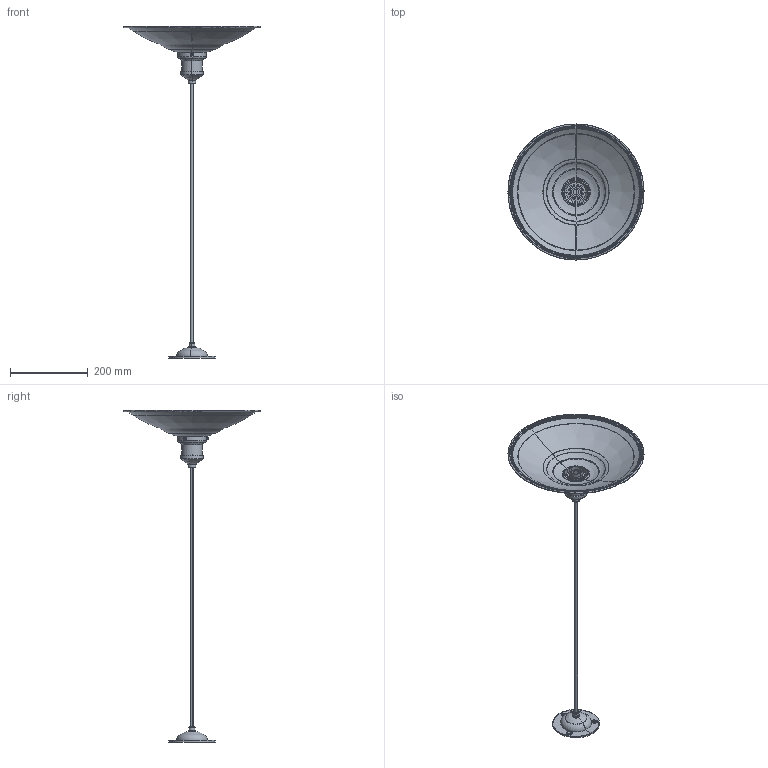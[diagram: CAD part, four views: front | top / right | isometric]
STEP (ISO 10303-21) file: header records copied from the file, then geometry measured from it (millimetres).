
FILE_DESCRIPTION(/* description */ (''),/* implementation_level */ '2;1');
FILE_NAME(/* name */ 'C:\Users\FrancoSartori\Documents\FARO\01_En Proceso\00_LANG\03_Publicación\62805.stp',/* time_stamp */ '2021-06-28T10:38:22+02:00',/* author */ ('FrancoSartori'),/* organization */ (''),/* preprocessor_version */ 'ST-DEVELOPER v18.1',/* originating_system */ 'AutoCAD Mechanical',/* authorisation */ '');
FILE_SCHEMA (('AUTOMOTIVE_DESIGN { 1 0 10303 214 3 1 1 }'));
Length unit declared in the file: millimetre
Products named in the file (3): Product; 62804 62805_CS - CS-600604-Export; 62804 62805_LAMP - LAMP-601715-Export
Assembly tree (2 placements, depth 2):
  Product
    62804 62805_CS - CS-600604-Export
    62804 62805_LAMP - LAMP-601715-Export
Bounding box: 349.99 x 350 x 853.98 mm (x, y, z)
Volume: 365792.4 mm3; surface area: 535221.5 mm2
Topology: 10 solids, 10 shells, 269 faces, 543 edges, 282 vertices
Faces by surface type: torus 81, plane 76, cylinder 66, bspline 36, cone 10
Entity records: 11842 total; most frequent: CARTESIAN_POINT 6519, DIRECTION 1094, ORIENTED_EDGE 1086, EDGE_CURVE 543, AXIS2_PLACEMENT_3D 476, VERTEX_POINT 282, EDGE_LOOP 273, FACE_OUTER_BOUND 269
